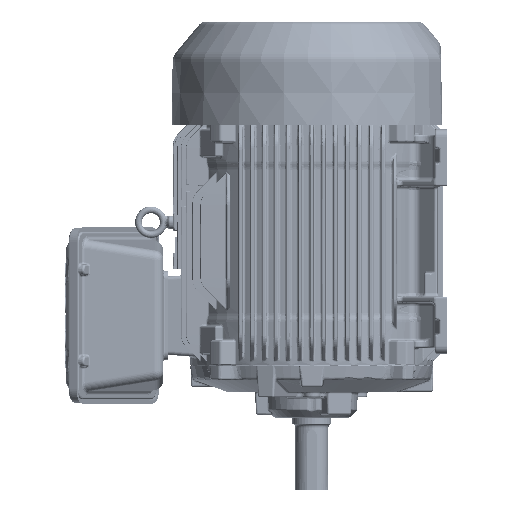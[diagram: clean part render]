
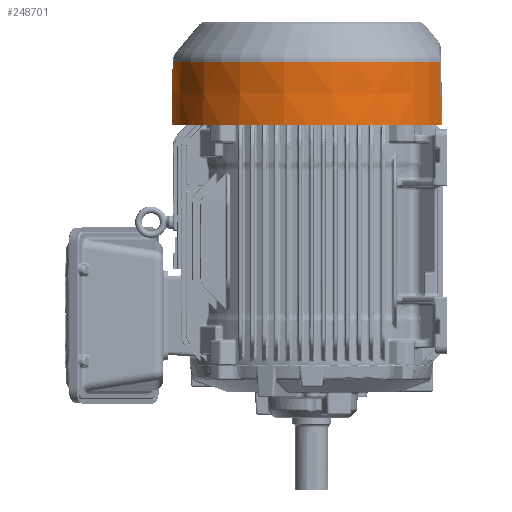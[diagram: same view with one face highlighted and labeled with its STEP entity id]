
A CAD part, left-side view. The second image highlights one B-rep face of the part: STEP entity #248701.
In plain terms, the highlighted conical face has half-angle 1 degrees and reference radius 233.124 mm.
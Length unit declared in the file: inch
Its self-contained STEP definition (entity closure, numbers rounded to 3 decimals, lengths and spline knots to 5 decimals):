
#242779=CARTESIAN_POINT('',(-3.60457,-8.48033,0.));
#242791=CARTESIAN_POINT('',(3.60457,-8.48033,0.));
#242797=CARTESIAN_POINT('',(-3.59136,-8.40669,
-4.17906));
#242798=CARTESIAN_POINT('',(-3.59246,-8.41281,
-3.83188));
#242799=CARTESIAN_POINT('',(-3.59463,-8.42493,
-3.14247));
#242800=CARTESIAN_POINT('',(-3.59779,-8.44253,
-2.14475));
#242801=CARTESIAN_POINT('',(-3.60104,-8.46061,
-1.11863));
#242802=CARTESIAN_POINT('',(-3.60337,-8.47363,
-0.37999));
#242803=CARTESIAN_POINT('',(-3.60457,-8.48033,0.));
#242805=CARTESIAN_POINT('',(0.,0.,-4.17906));
#242806=DIRECTION('',(0.,0.,-1.));
#242807=DIRECTION('',(-0.393,-0.92,0.));
#242808=AXIS2_PLACEMENT_3D('',#242805,#242806,#242807);
#242810=CARTESIAN_POINT('',(3.60457,-8.48033,0.));
#242811=CARTESIAN_POINT('',(3.60357,-8.47474,
-0.31672));
#242812=CARTESIAN_POINT('',(3.60153,-8.46334,
-0.96364));
#242813=CARTESIAN_POINT('',(3.59836,-8.4457,
-1.96446));
#242814=CARTESIAN_POINT('',(3.595,-8.427,
-3.02559));
#242815=CARTESIAN_POINT('',(3.59259,-8.41359,
-3.7864));
#242816=CARTESIAN_POINT('',(3.59135,-8.40667,
-4.17906));
#242818=CARTESIAN_POINT('',(0.,0.,0.));
#242819=DIRECTION('',(0.,0.,1.));
#242820=DIRECTION('',(0.391,-0.92,0.));
#242821=AXIS2_PLACEMENT_3D('',#242818,#242819,#242820);
#247030=VERTEX_POINT('',#242779);
#247033=VERTEX_POINT('',#242797);
#247040=CARTESIAN_POINT('',(3.59124,-8.40671,
-4.17906));
#247041=VERTEX_POINT('',#247040);
#247043=VERTEX_POINT('',#242791);
#248689=CARTESIAN_POINT('',(0.,0.,-2.08953));
#248690=DIRECTION('',(0.,0.,1.));
#248691=DIRECTION('',(0.,1.,0.));
#248692=AXIS2_PLACEMENT_3D('',#248689,#248690,#248691);
#248693=CONICAL_SURFACE('',#248692,9.17813,1.);
#248694=ORIENTED_EDGE('',*,*,#248670,.F.);
#248695=ORIENTED_EDGE('',*,*,#248516,.T.);
#248697=ORIENTED_EDGE('',*,*,#248696,.F.);
#248698=ORIENTED_EDGE('',*,*,#248681,.T.);
#248699=EDGE_LOOP('',(#248694,#248695,#248697,#248698));
#248700=FACE_OUTER_BOUND('',#248699,.F.);
#248701=ADVANCED_FACE('',(#248700),#248693,.T.);
#242804=B_SPLINE_CURVE_WITH_KNOTS('',3,(#242797,#242798,#242799,#242800,#242801,
#242802,#242803),.UNSPECIFIED.,.F.,.F.,(4,1,1,1,4),(0.,0.25,0.5,0.75,
1.),.UNSPECIFIED.);
#242809=CIRCLE('',#242808,9.14165);
#242817=B_SPLINE_CURVE_WITH_KNOTS('',3,(#242810,#242811,#242812,#242813,#242814,
#242815,#242816),.UNSPECIFIED.,.F.,.F.,(4,1,1,1,4),(0.,0.25,0.5,0.75,
1.),.UNSPECIFIED.);
#242822=CIRCLE('',#242821,9.2146);
#248516=EDGE_CURVE('',#247033,#247041,#242809,.T.);
#248670=EDGE_CURVE('',#247033,#247030,#242804,.T.);
#248681=EDGE_CURVE('',#247043,#247030,#242822,.T.);
#248696=EDGE_CURVE('',#247043,#247041,#242817,.T.);
